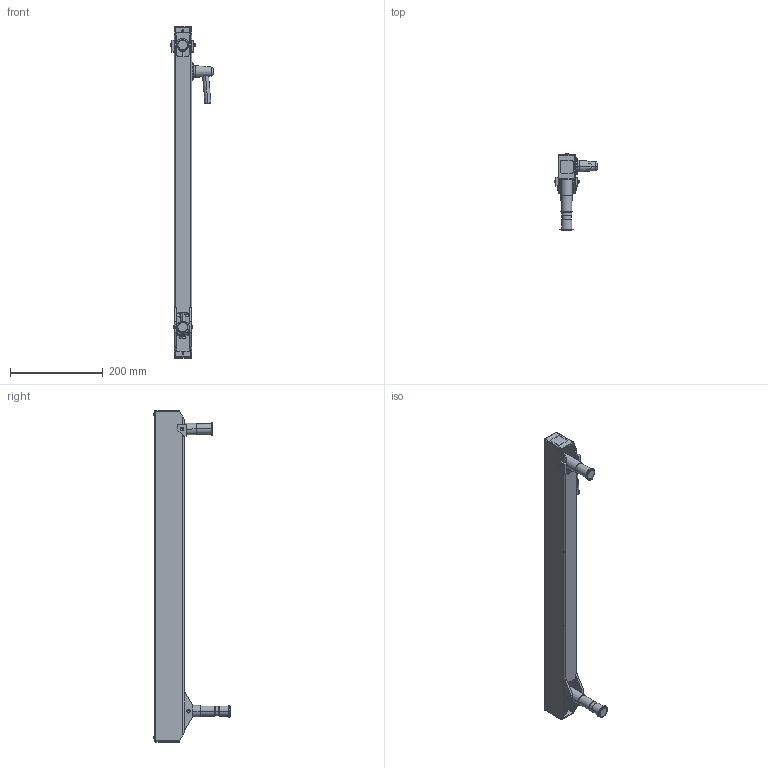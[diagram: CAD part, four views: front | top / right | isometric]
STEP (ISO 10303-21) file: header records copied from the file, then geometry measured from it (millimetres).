
FILE_DESCRIPTION (( 'STEP AP203' ), '1' );
FILE_NAME ('70-2424-00 REV AA, FLEX SECTION, 24in, 3-24 LB - HORIZONTAL.STEP', '2025-06-17T23:29:36', ( '' ), ( '' ), 'SwSTEP 2.0', 'SolidWorks 2025', '' );
FILE_SCHEMA (( 'CONFIG_CONTROL_DESIGN' ));
Length unit declared in the file: inch
Products named in the file (32): 71-0071-RX REV AA, AXLE PIN, LONG; 71-1051-RX REV AA, SPRING BLOCK; 71-0037-RX REV AA, PIVOT, THREADED; 006-059-00; 71-0972-99 REV AA, END CAP, FLEX; 010-011-00, RETAINING RING, EXT, .250 SHAFT_010-011-00; 002-041-00_002-041-00; 71-0039-RX REV AA, BRAKE BLOCK_MACHINE; 71-2401-BLKX REV AA, FLEX HOUSING, 24in, BLACK; 71-0028-RX REV AA, TAB, MOUNT_MACHINE; 004-144-00; 11-0602-RX REV AA, HANDLE, BRAKE ASSEMBLY; 004-050-00, WASHER, FIBER, .032 THK, .265ID; 010-012-00, RETAINING RING, EXTERNAL, .875in SHAFT; 11-0601-99 REV AA, CONICAL KNOB, BRAKE ASSEMBLY; 011-033-00; 71-0031-RX REV AA, KNUCKLE, MOUNT_MACHINE; 013-037-00, SPRING, GREEN, 1x12; 71-0038-RX REV AA, PIVOT, KNUCKLE, ELECTROLESS NICKEL; 005-084-00, BOLT, 1''4-20x2.75; 71-3033-99 REV AA, BOLT, ADJUSTING, 15.250; 70-2424-00 REV AA,  FLEX SECTION, 24in, 3-24 LB - HORIZONTAL; 11-0027-RX REV AA, PLASTIC DISC, BRAKE ASSEMBLY_MACHINE; 006-004-00_006-004-00; 71-0029-RX REV AA, TAB, LOAD; 71-2400-RX REV AA, HOUSING, 24in FLEX; 71-0030-RX REV AA, KNUCKLE, LOAD_MACHINE; 11-0650-00 REV AA, BRAKE HANDLE ASSEMBLY; 71-0070-RX REV AA, AXLE PIN, SHORT; 011-020-00 REV AA, PIN, KNURLED, 1.0LG x .25OD; 71-3032-RX REV AA, SPRING ROD, 24in FLEX; 016-070-00, BEARING, PLASTIC, .5ID x .625 OD x .75
Assembly tree (48 placements, depth 3):
  70-2424-00 REV AA,  FLEX SECTION, 24in, 3-24 LB - HORIZONTAL
    71-0031-RX REV AA, KNUCKLE, MOUNT_MACHINE
    71-1051-RX REV AA, SPRING BLOCK
    71-3032-RX REV AA, SPRING ROD, 24in FLEX
    71-0030-RX REV AA, KNUCKLE, LOAD_MACHINE
    71-0038-RX REV AA, PIVOT, KNUCKLE, ELECTROLESS NICKEL
    71-0037-RX REV AA, PIVOT, THREADED
    71-0039-RX REV AA, BRAKE BLOCK_MACHINE
    71-3033-99 REV AA, BOLT, ADJUSTING, 15.250
    71-2401-BLKX REV AA, FLEX HOUSING, 24in, BLACK
      71-2400-RX REV AA, HOUSING, 24in FLEX
      71-0029-RX REV AA, TAB, LOAD  x2
      71-0028-RX REV AA, TAB, MOUNT_MACHINE  x2
    71-0070-RX REV AA, AXLE PIN, SHORT
    71-0071-RX REV AA, AXLE PIN, LONG
    010-012-00, RETAINING RING, EXTERNAL, .875in SHAFT  x2
    71-0972-99 REV AA, END CAP, FLEX  x2
    11-0027-RX REV AA, PLASTIC DISC, BRAKE ASSEMBLY_MACHINE
    11-0650-00 REV AA, BRAKE HANDLE ASSEMBLY
      11-0601-99 REV AA, CONICAL KNOB, BRAKE ASSEMBLY
      11-0602-RX REV AA, HANDLE, BRAKE ASSEMBLY
      11-0027-RX REV AA, PLASTIC DISC, BRAKE ASSEMBLY_MACHINE
      005-084-00, BOLT, 1''4-20x2.75
    010-011-00, RETAINING RING, EXT, .250 SHAFT_010-011-00  x4
    016-070-00, BEARING, PLASTIC, .5ID x .625 OD x .75  x2
    011-033-00
    011-020-00 REV AA, PIN, KNURLED, 1.0LG x .25OD  x2
    004-144-00  x3
    006-059-00
    013-037-00, SPRING, GREEN, 1x12
    004-050-00, WASHER, FIBER, .032 THK, .265ID  x4
    006-004-00_006-004-00  x2
    002-041-00_002-041-00  x2
Bounding box: 91.63 x 165.23 x 717.3 mm (x, y, z)
Volume: 670109.4 mm3; surface area: 453477.8 mm2
Topology: 48 solids, 48 shells, 1039 faces, 2541 edges, 1598 vertices
Faces by surface type: cylinder 430, plane 357, cone 181, torus 45, bspline 20, sphere 6
Entity records: 53151 total; most frequent: CARTESIAN_POINT 32220, ORIENTED_EDGE 3566, DIRECTION 3560, EDGE_CURVE 1783, AXIS2_PLACEMENT_3D 1364, VERTEX_POINT 1122, LINE 832, VECTOR 832
